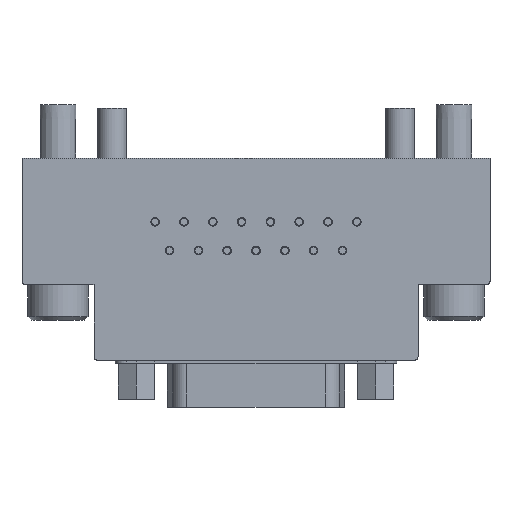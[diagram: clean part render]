
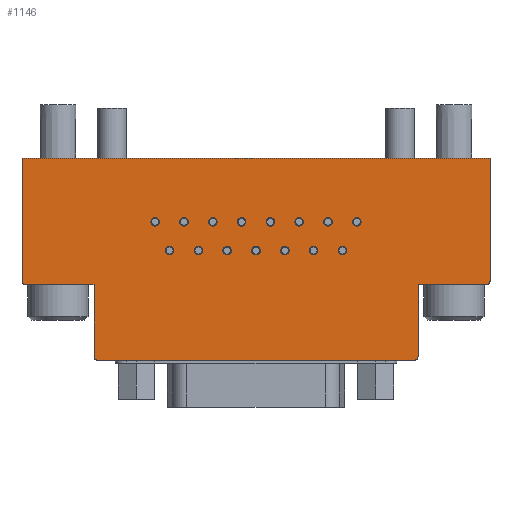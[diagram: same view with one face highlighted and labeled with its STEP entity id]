
A CAD part, top view. The second image highlights one B-rep face of the part: STEP entity #1146.
In plain terms, the highlighted planar face has unit normal (0, 0, 1).
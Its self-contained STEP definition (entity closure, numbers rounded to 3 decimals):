
#1146=ADVANCED_FACE('',(#2276,#2277,#2278,#2279,#2280,#2281,#2282,#2283,#2284,#2285,#2286,#2287,#2288,#2289,#2290,#2291),#2292,.T.);
#2276=FACE_BOUND('',#3527,.T.);
#2277=FACE_BOUND('',#3528,.T.);
#2278=FACE_BOUND('',#3529,.T.);
#2279=FACE_BOUND('',#3530,.T.);
#2280=FACE_BOUND('',#3531,.T.);
#2281=FACE_BOUND('',#3532,.T.);
#2282=FACE_BOUND('',#3533,.T.);
#2283=FACE_BOUND('',#3534,.T.);
#2284=FACE_BOUND('',#3535,.T.);
#2285=FACE_BOUND('',#3536,.T.);
#2286=FACE_BOUND('',#3537,.T.);
#2287=FACE_BOUND('',#3538,.T.);
#2288=FACE_BOUND('',#3539,.T.);
#2289=FACE_BOUND('',#3540,.T.);
#2290=FACE_BOUND('',#3541,.T.);
#2291=FACE_OUTER_BOUND('',#3542,.T.);
#2292=PLANE('',#3543);
#3527=EDGE_LOOP('',(#5454));
#3528=EDGE_LOOP('',(#5455));
#3529=EDGE_LOOP('',(#5456));
#3530=EDGE_LOOP('',(#5457));
#3531=EDGE_LOOP('',(#5458));
#3532=EDGE_LOOP('',(#5459));
#3533=EDGE_LOOP('',(#5460));
#3534=EDGE_LOOP('',(#5461));
#3535=EDGE_LOOP('',(#5462));
#3536=EDGE_LOOP('',(#5463));
#3537=EDGE_LOOP('',(#5464));
#3538=EDGE_LOOP('',(#5465));
#3539=EDGE_LOOP('',(#5466));
#3540=EDGE_LOOP('',(#5467));
#3541=EDGE_LOOP('',(#5468));
#3542=EDGE_LOOP('',(#5469,#5470,#5471,#5472,#5473,#5474,#5475,#5476,#5477,#5478,#5479,#5480));
#3543=AXIS2_PLACEMENT_3D('',#5481,#5482,#5483);
#5454=ORIENTED_EDGE('',*,*,#7321,.F.);
#5455=ORIENTED_EDGE('',*,*,#7322,.F.);
#5456=ORIENTED_EDGE('',*,*,#7323,.F.);
#5457=ORIENTED_EDGE('',*,*,#6871,.F.);
#5458=ORIENTED_EDGE('',*,*,#6849,.F.);
#5459=ORIENTED_EDGE('',*,*,#6811,.F.);
#5460=ORIENTED_EDGE('',*,*,#7324,.F.);
#5461=ORIENTED_EDGE('',*,*,#6906,.F.);
#5462=ORIENTED_EDGE('',*,*,#7295,.F.);
#5463=ORIENTED_EDGE('',*,*,#7303,.F.);
#5464=ORIENTED_EDGE('',*,*,#6889,.F.);
#5465=ORIENTED_EDGE('',*,*,#7325,.F.);
#5466=ORIENTED_EDGE('',*,*,#7326,.F.);
#5467=ORIENTED_EDGE('',*,*,#7327,.F.);
#5468=ORIENTED_EDGE('',*,*,#7328,.F.);
#5469=ORIENTED_EDGE('',*,*,#6885,.T.);
#5470=ORIENTED_EDGE('',*,*,#7319,.T.);
#5471=ORIENTED_EDGE('',*,*,#6860,.T.);
#5472=ORIENTED_EDGE('',*,*,#7272,.T.);
#5473=ORIENTED_EDGE('',*,*,#7262,.T.);
#5474=ORIENTED_EDGE('',*,*,#7315,.T.);
#5475=ORIENTED_EDGE('',*,*,#7298,.T.);
#5476=ORIENTED_EDGE('',*,*,#6902,.T.);
#5477=ORIENTED_EDGE('',*,*,#6896,.T.);
#5478=ORIENTED_EDGE('',*,*,#7311,.T.);
#5479=ORIENTED_EDGE('',*,*,#7277,.T.);
#5480=ORIENTED_EDGE('',*,*,#6832,.T.);
#5481=CARTESIAN_POINT('',(-32.5,-28.0,13.5));
#5482=DIRECTION('',(0.0,0.0,1.0));
#5483=DIRECTION('',(1.0,0.0,0.0));
#6811=EDGE_CURVE('',#7817,#7817,#7818,.T.);
#6832=EDGE_CURVE('',#7848,#7853,#7855,.T.);
#6849=EDGE_CURVE('',#7881,#7881,#7882,.T.);
#6860=EDGE_CURVE('',#7899,#7900,#7901,.T.);
#6871=EDGE_CURVE('',#7918,#7918,#7919,.T.);
#6885=EDGE_CURVE('',#7853,#7938,#7940,.T.);
#6889=EDGE_CURVE('',#7945,#7945,#7946,.T.);
#6896=EDGE_CURVE('',#7953,#7957,#7959,.T.);
#6902=EDGE_CURVE('',#7967,#7953,#7968,.T.);
#6906=EDGE_CURVE('',#7973,#7973,#7974,.T.);
#7262=EDGE_CURVE('',#8527,#8529,#8531,.T.);
#7272=EDGE_CURVE('',#7900,#8527,#8546,.T.);
#7277=EDGE_CURVE('',#8552,#7848,#8553,.T.);
#7295=EDGE_CURVE('',#8579,#8579,#8580,.T.);
#7298=EDGE_CURVE('',#8582,#7967,#8584,.T.);
#7303=EDGE_CURVE('',#8590,#8590,#8591,.T.);
#7311=EDGE_CURVE('',#7957,#8552,#8602,.T.);
#7315=EDGE_CURVE('',#8529,#8582,#8607,.T.);
#7319=EDGE_CURVE('',#7938,#7899,#8612,.T.);
#7321=EDGE_CURVE('',#8614,#8614,#8615,.T.);
#7322=EDGE_CURVE('',#8616,#8616,#8617,.T.);
#7323=EDGE_CURVE('',#8618,#8618,#8619,.T.);
#7324=EDGE_CURVE('',#8620,#8620,#8621,.T.);
#7325=EDGE_CURVE('',#8622,#8622,#8623,.T.);
#7326=EDGE_CURVE('',#8624,#8624,#8625,.T.);
#7327=EDGE_CURVE('',#8626,#8626,#8627,.T.);
#7328=EDGE_CURVE('',#8628,#8628,#8629,.T.);
#7817=VERTEX_POINT('',#9252);
#7818=CIRCLE('',#9253,0.6);
#7848=VERTEX_POINT('',#9288);
#7853=VERTEX_POINT('',#9295);
#7855=LINE('',#9298,#9299);
#7881=VERTEX_POINT('',#9326);
#7882=CIRCLE('',#9327,0.6);
#7899=VERTEX_POINT('',#9347);
#7900=VERTEX_POINT('',#9348);
#7901=LINE('',#9349,#9350);
#7918=VERTEX_POINT('',#9370);
#7919=CIRCLE('',#9371,0.6);
#7938=VERTEX_POINT('',#9392);
#7940=LINE('',#9395,#9396);
#7945=VERTEX_POINT('',#9401);
#7946=CIRCLE('',#9402,0.6);
#7953=VERTEX_POINT('',#9409);
#7957=VERTEX_POINT('',#9415);
#7959=LINE('',#9418,#9419);
#7967=VERTEX_POINT('',#9428);
#7968=LINE('',#9429,#9430);
#7973=VERTEX_POINT('',#9437);
#7974=CIRCLE('',#9438,0.6);
#8527=VERTEX_POINT('',#10165);
#8529=VERTEX_POINT('',#10168);
#8531=CIRCLE('',#10171,0.5);
#8546=LINE('',#10186,#10187);
#8552=VERTEX_POINT('',#10193);
#8553=LINE('',#10194,#10195);
#8579=VERTEX_POINT('',#10223);
#8580=CIRCLE('',#10224,0.6);
#8582=VERTEX_POINT('',#10226);
#8584=CIRCLE('',#10229,0.5);
#8590=VERTEX_POINT('',#10235);
#8591=CIRCLE('',#10236,0.6);
#8602=CIRCLE('',#10247,0.5);
#8607=LINE('',#10254,#10255);
#8612=CIRCLE('',#10260,0.5);
#8614=VERTEX_POINT('',#10262);
#8615=CIRCLE('',#10263,0.6);
#8616=VERTEX_POINT('',#10264);
#8617=CIRCLE('',#10265,0.6);
#8618=VERTEX_POINT('',#10266);
#8619=CIRCLE('',#10267,0.6);
#8620=VERTEX_POINT('',#10268);
#8621=CIRCLE('',#10269,0.6);
#8622=VERTEX_POINT('',#10270);
#8623=CIRCLE('',#10271,0.6);
#8624=VERTEX_POINT('',#10272);
#8625=CIRCLE('',#10273,0.6);
#8626=VERTEX_POINT('',#10274);
#8627=CIRCLE('',#10275,0.6);
#8628=VERTEX_POINT('',#10276);
#8629=CIRCLE('',#10277,0.6);
#9252=CARTESIAN_POINT('',(6.6,-8.8,13.5));
#9253=AXIS2_PLACEMENT_3D('',#10974,#10975,#10976);
#9288=CARTESIAN_POINT('',(32.5,0.0,13.5));
#9295=CARTESIAN_POINT('',(-32.5,0.0,13.5));
#9298=CARTESIAN_POINT('',(32.5,0.0,13.5));
#9299=VECTOR('',#11009,1.0);
#9326=CARTESIAN_POINT('',(2.6,-8.8,13.5));
#9327=AXIS2_PLACEMENT_3D('',#11038,#11039,#11040);
#9347=CARTESIAN_POINT('',(-32.0,-17.5,13.5));
#9348=CARTESIAN_POINT('',(-22.5,-17.5,13.5));
#9349=CARTESIAN_POINT('',(-32.5,-17.5,13.5));
#9350=VECTOR('',#11056,1.0);
#9370=CARTESIAN_POINT('',(-1.4,-8.8,13.5));
#9371=AXIS2_PLACEMENT_3D('',#11072,#11073,#11074);
#9392=CARTESIAN_POINT('',(-32.5,-17.0,13.5));
#9395=CARTESIAN_POINT('',(-32.5,0.0,13.5));
#9396=VECTOR('',#11090,1.0);
#9401=CARTESIAN_POINT('',(-3.4,-12.8,13.5));
#9402=AXIS2_PLACEMENT_3D('',#11094,#11095,#11096);
#9409=CARTESIAN_POINT('',(22.5,-17.5,13.5));
#9415=CARTESIAN_POINT('',(32.0,-17.5,13.5));
#9418=CARTESIAN_POINT('',(22.5,-17.5,13.5));
#9419=VECTOR('',#11106,1.0);
#9428=CARTESIAN_POINT('',(22.5,-27.5,13.5));
#9429=CARTESIAN_POINT('',(22.5,-28.0,13.5));
#9430=VECTOR('',#11114,1.0);
#9437=CARTESIAN_POINT('',(14.6,-8.8,13.5));
#9438=AXIS2_PLACEMENT_3D('',#11117,#11118,#11119);
#10165=CARTESIAN_POINT('',(-22.5,-27.5,13.5));
#10168=CARTESIAN_POINT('',(-22.0,-28.0,13.5));
#10171=AXIS2_PLACEMENT_3D('',#11545,#11546,#11547);
#10186=CARTESIAN_POINT('',(-22.5,-17.5,13.5));
#10187=VECTOR('',#11563,1.0);
#10193=CARTESIAN_POINT('',(32.5,-17.0,13.5));
#10194=CARTESIAN_POINT('',(32.5,-28.0,13.5));
#10195=VECTOR('',#11567,1.0);
#10223=CARTESIAN_POINT('',(-11.4,-12.8,13.5));
#10224=AXIS2_PLACEMENT_3D('',#11594,#11595,#11596);
#10226=CARTESIAN_POINT('',(22.0,-28.0,13.5));
#10229=AXIS2_PLACEMENT_3D('',#11598,#11599,#11600);
#10235=CARTESIAN_POINT('',(-7.4,-12.8,13.5));
#10236=AXIS2_PLACEMENT_3D('',#11604,#11605,#11606);
#10247=AXIS2_PLACEMENT_3D('',#11616,#11617,#11618);
#10254=CARTESIAN_POINT('',(-32.5,-28.0,13.5));
#10255=VECTOR('',#11621,1.0);
#10260=AXIS2_PLACEMENT_3D('',#11625,#11626,#11627);
#10262=CARTESIAN_POINT('',(-13.4,-8.8,13.5));
#10263=AXIS2_PLACEMENT_3D('',#11628,#11629,#11630);
#10264=CARTESIAN_POINT('',(-9.4,-8.8,13.5));
#10265=AXIS2_PLACEMENT_3D('',#11631,#11632,#11633);
#10266=CARTESIAN_POINT('',(-5.4,-8.8,13.5));
#10267=AXIS2_PLACEMENT_3D('',#11634,#11635,#11636);
#10268=CARTESIAN_POINT('',(10.6,-8.8,13.5));
#10269=AXIS2_PLACEMENT_3D('',#11637,#11638,#11639);
#10270=CARTESIAN_POINT('',(0.6,-12.8,13.5));
#10271=AXIS2_PLACEMENT_3D('',#11640,#11641,#11642);
#10272=CARTESIAN_POINT('',(4.6,-12.8,13.5));
#10273=AXIS2_PLACEMENT_3D('',#11643,#11644,#11645);
#10274=CARTESIAN_POINT('',(8.6,-12.8,13.5));
#10275=AXIS2_PLACEMENT_3D('',#11646,#11647,#11648);
#10276=CARTESIAN_POINT('',(12.6,-12.8,13.5));
#10277=AXIS2_PLACEMENT_3D('',#11649,#11650,#11651);
#10974=CARTESIAN_POINT('',(6.0,-8.8,13.5));
#10975=DIRECTION('',(0.0,0.0,1.0));
#10976=DIRECTION('',(1.0,0.0,0.0));
#11009=DIRECTION('',(-1.0,0.0,0.0));
#11038=CARTESIAN_POINT('',(2.0,-8.8,13.5));
#11039=DIRECTION('',(0.0,0.0,1.0));
#11040=DIRECTION('',(1.0,0.0,0.0));
#11056=DIRECTION('',(1.0,0.0,0.0));
#11072=CARTESIAN_POINT('',(-2.0,-8.8,13.5));
#11073=DIRECTION('',(0.0,0.0,1.0));
#11074=DIRECTION('',(1.0,0.0,0.0));
#11090=DIRECTION('',(0.0,-1.0,0.0));
#11094=CARTESIAN_POINT('',(-4.0,-12.8,13.5));
#11095=DIRECTION('',(0.0,0.0,1.0));
#11096=DIRECTION('',(1.0,0.0,0.0));
#11106=DIRECTION('',(1.0,0.0,0.0));
#11114=DIRECTION('',(0.0,1.0,0.0));
#11117=CARTESIAN_POINT('',(14.0,-8.8,13.5));
#11118=DIRECTION('',(0.0,0.0,1.0));
#11119=DIRECTION('',(1.0,0.0,0.0));
#11545=CARTESIAN_POINT('',(-22.0,-27.5,13.5));
#11546=DIRECTION('',(0.0,0.0,1.0));
#11547=DIRECTION('',(1.0,0.0,0.0));
#11563=DIRECTION('',(0.0,-1.0,0.0));
#11567=DIRECTION('',(0.0,1.0,0.0));
#11594=CARTESIAN_POINT('',(-12.0,-12.8,13.5));
#11595=DIRECTION('',(0.0,0.0,1.0));
#11596=DIRECTION('',(1.0,0.0,0.0));
#11598=CARTESIAN_POINT('',(22.0,-27.5,13.5));
#11599=DIRECTION('',(0.0,0.0,1.0));
#11600=DIRECTION('',(1.0,0.0,0.0));
#11604=CARTESIAN_POINT('',(-8.0,-12.8,13.5));
#11605=DIRECTION('',(0.0,0.0,1.0));
#11606=DIRECTION('',(1.0,0.0,0.0));
#11616=CARTESIAN_POINT('',(32.0,-17.0,13.5));
#11617=DIRECTION('',(0.0,0.0,1.0));
#11618=DIRECTION('',(1.0,0.0,0.0));
#11621=DIRECTION('',(1.0,0.0,0.0));
#11625=CARTESIAN_POINT('',(-32.0,-17.0,13.5));
#11626=DIRECTION('',(0.0,0.0,1.0));
#11627=DIRECTION('',(1.0,0.0,0.0));
#11628=CARTESIAN_POINT('',(-14.0,-8.8,13.5));
#11629=DIRECTION('',(0.0,0.0,1.0));
#11630=DIRECTION('',(1.0,0.0,0.0));
#11631=CARTESIAN_POINT('',(-10.0,-8.8,13.5));
#11632=DIRECTION('',(0.0,0.0,1.0));
#11633=DIRECTION('',(1.0,0.0,0.0));
#11634=CARTESIAN_POINT('',(-6.0,-8.8,13.5));
#11635=DIRECTION('',(0.0,0.0,1.0));
#11636=DIRECTION('',(1.0,0.0,0.0));
#11637=CARTESIAN_POINT('',(10.0,-8.8,13.5));
#11638=DIRECTION('',(0.0,0.0,1.0));
#11639=DIRECTION('',(1.0,0.0,0.0));
#11640=CARTESIAN_POINT('',(0.0,-12.8,13.5));
#11641=DIRECTION('',(0.0,0.0,1.0));
#11642=DIRECTION('',(1.0,0.0,0.0));
#11643=CARTESIAN_POINT('',(4.0,-12.8,13.5));
#11644=DIRECTION('',(0.0,0.0,1.0));
#11645=DIRECTION('',(1.0,0.0,0.0));
#11646=CARTESIAN_POINT('',(8.0,-12.8,13.5));
#11647=DIRECTION('',(0.0,0.0,1.0));
#11648=DIRECTION('',(1.0,0.0,0.0));
#11649=CARTESIAN_POINT('',(12.0,-12.8,13.5));
#11650=DIRECTION('',(0.0,0.0,1.0));
#11651=DIRECTION('',(1.0,0.0,0.0));
